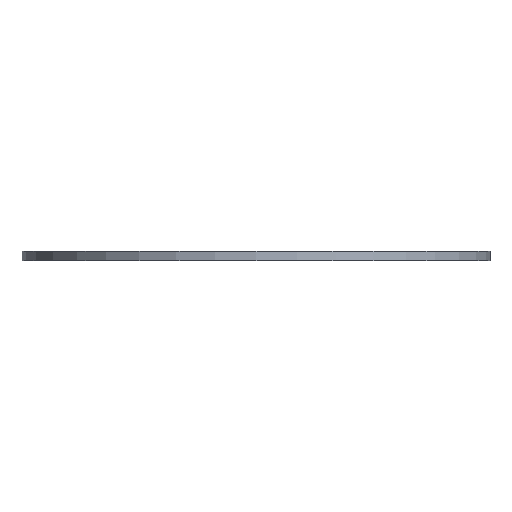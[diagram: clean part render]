
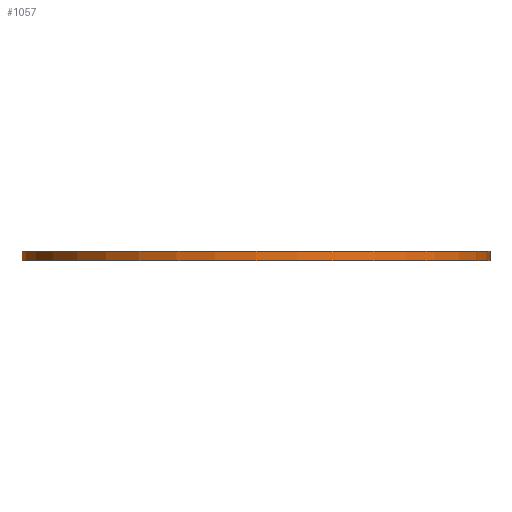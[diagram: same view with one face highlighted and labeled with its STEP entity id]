
A CAD part, front view. The second image highlights one B-rep face of the part: STEP entity #1057.
In plain terms, the highlighted cylindrical face has radius 865 mm (diameter 1730 mm), a full revolution.
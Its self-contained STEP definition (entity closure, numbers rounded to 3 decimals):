
#125=FACE_OUTER_BOUND('',#164,.T.);
#164=EDGE_LOOP('',(#866,#867,#868,#869,#870,#871));
#275=LINE('',#1867,#312);
#312=VECTOR('',#1563,865.);
#421=CIRCLE('',#1225,865.);
#422=CIRCLE('',#1226,865.);
#423=CIRCLE('',#1227,865.);
#424=CIRCLE('',#1228,865.);
#533=VERTEX_POINT('',#1862);
#534=VERTEX_POINT('',#1863);
#535=VERTEX_POINT('',#1866);
#536=VERTEX_POINT('',#1868);
#681=EDGE_CURVE('',#533,#534,#421,.T.);
#682=EDGE_CURVE('',#534,#533,#422,.T.);
#683=EDGE_CURVE('',#534,#535,#275,.T.);
#684=EDGE_CURVE('',#535,#536,#423,.T.);
#685=EDGE_CURVE('',#536,#535,#424,.T.);
#866=ORIENTED_EDGE('',*,*,#681,.F.);
#867=ORIENTED_EDGE('',*,*,#682,.F.);
#868=ORIENTED_EDGE('',*,*,#683,.T.);
#869=ORIENTED_EDGE('',*,*,#684,.T.);
#870=ORIENTED_EDGE('',*,*,#685,.T.);
#871=ORIENTED_EDGE('',*,*,#683,.F.);
#1020=CYLINDRICAL_SURFACE('',#1224,865.);
#1057=ADVANCED_FACE('',(#125),#1020,.T.);
#1224=AXIS2_PLACEMENT_3D('',#1861,#1557,#1558);
#1225=AXIS2_PLACEMENT_3D('',#1864,#1559,#1560);
#1226=AXIS2_PLACEMENT_3D('',#1865,#1561,#1562);
#1227=AXIS2_PLACEMENT_3D('',#1869,#1564,#1565);
#1228=AXIS2_PLACEMENT_3D('',#1870,#1566,#1567);
#1557=DIRECTION('center_axis',(0.,0.,1.));
#1558=DIRECTION('ref_axis',(1.,0.,0.));
#1559=DIRECTION('center_axis',(0.,0.,1.));
#1560=DIRECTION('ref_axis',(1.,0.,0.));
#1561=DIRECTION('center_axis',(0.,0.,1.));
#1562=DIRECTION('ref_axis',(1.,0.,0.));
#1563=DIRECTION('',(0.,0.,-1.));
#1564=DIRECTION('center_axis',(0.,0.,1.));
#1565=DIRECTION('ref_axis',(1.,0.,0.));
#1566=DIRECTION('center_axis',(0.,0.,1.));
#1567=DIRECTION('ref_axis',(1.,0.,0.));
#1861=CARTESIAN_POINT('Origin',(0.,0.,0.));
#1862=CARTESIAN_POINT('',(865.,0.,36.));
#1863=CARTESIAN_POINT('',(-865.,0.,36.));
#1864=CARTESIAN_POINT('Origin',(0.,0.,36.));
#1865=CARTESIAN_POINT('Origin',(0.,0.,36.));
#1866=CARTESIAN_POINT('',(-865.,0.,0.));
#1867=CARTESIAN_POINT('',(-865.,0.,0.));
#1868=CARTESIAN_POINT('',(865.,0.,0.));
#1869=CARTESIAN_POINT('Origin',(0.,0.,0.));
#1870=CARTESIAN_POINT('Origin',(0.,0.,0.));
